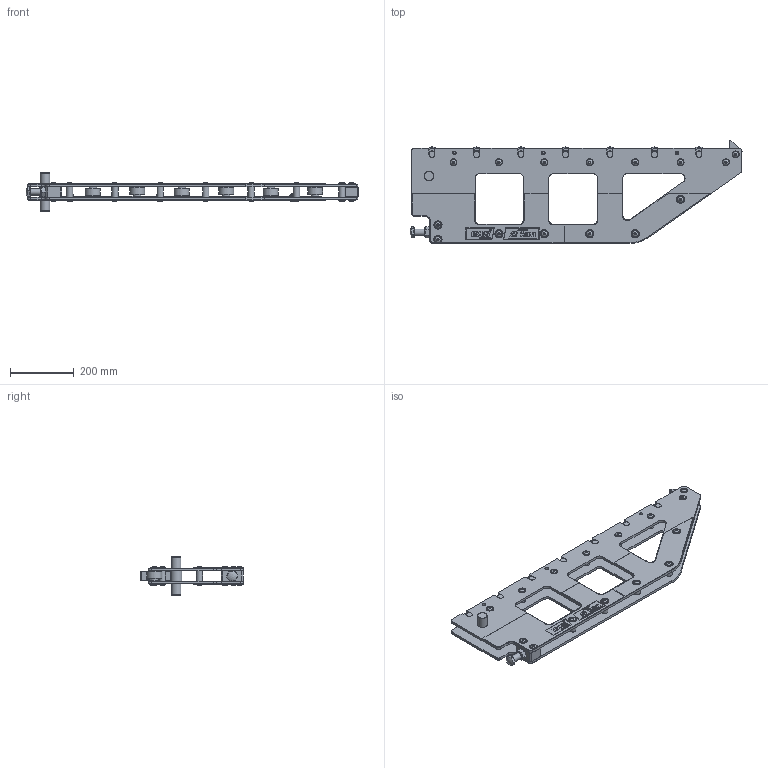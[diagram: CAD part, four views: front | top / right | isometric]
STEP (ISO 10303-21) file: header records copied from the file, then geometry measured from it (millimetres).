
FILE_DESCRIPTION(/* description */ ('CONSOLE PLATE '),/* implementation_level */ '2;1');
FILE_NAME(/* name */ 'C:\Users\jaccow\AppData\Local\Temp\Cadac\NetworkPub\step\FB801-950.iam.stp',/* time_stamp */ '2017-12-14T11:58:21+01:00',/* author */ ('Yue'),/* organization */ (''),/* preprocessor_version */ 'ST-DEVELOPER v16.1',/* originating_system */ 'Autodesk Inventor 2016',/* authorisation */ '');
FILE_SCHEMA (('AUTOMOTIVE_DESIGN { 1 0 10303 214 3 1 1 }'));
Products named in the file (17): FB803-101; FB622-186; FB759-104; DQ1513-281; FB720-101; FB621-104; FB620-044; FB760-104; FB761-690; CAE1100-1081A; CCE1020-028-9A; DQ1397-120; CBE1200-1201D; DQ1509-028; FB912-026; FB913-026; FB801-950
Assembly tree (76 placements, depth 2):
  FB801-950
    FB803-101  x2
    FB622-186  x12
    FB759-104  x7
    DQ1513-281  x7
    FB720-101
    FB621-104
    FB620-044
    FB760-104
    FB761-690
    CAE1100-1081A  x3
    CCE1020-028-9A  x33
    DQ1397-120  x3
    CBE1200-1201D
    DQ1509-028
    FB912-026
    FB913-026
Bounding box: 1044.78 x 323.57 x 120 mm (x, y, z)
Volume: 4192332.7 mm3; surface area: 1542660.7 mm2
Topology: 106 solids, 106 shells, 3607 faces, 8703 edges, 5648 vertices
Faces by surface type: plane 2061, bspline 649, cylinder 438, cone 341, torus 117, sphere 1
Full cylindrical faces by diameter (mm): 1.541 x7, 3.4 x7, 8.376 x18, 10 x33, 10.5 x3, 11.5 x34, 13.5 x3, 15.95 x1, 16 x2, 16.1 x1, 17.294 x2, 20 x27, 21 x3, 22 x33, 25 x7, 25.1 x7, 26 x12, 30 x5, 31.9 x7, 35 x1, 36.5 x28, 47 x7
Entity records: 76673 total; most frequent: CARTESIAN_POINT 22640, ORIENTED_EDGE 12024, DIRECTION 8718, EDGE_CURVE 6003, LINE 4322, VECTOR 4322, VERTEX_POINT 4050, EDGE_LOOP 2732
